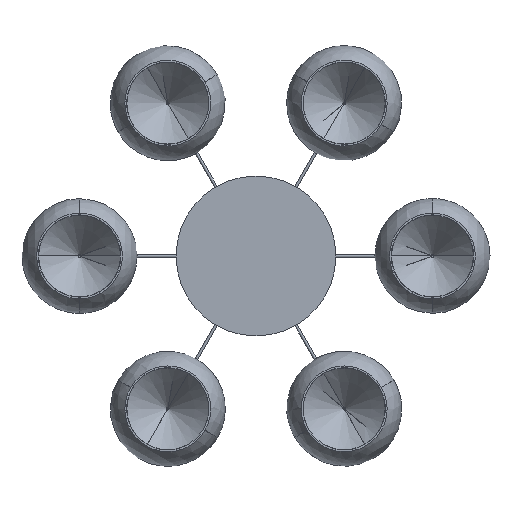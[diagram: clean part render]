
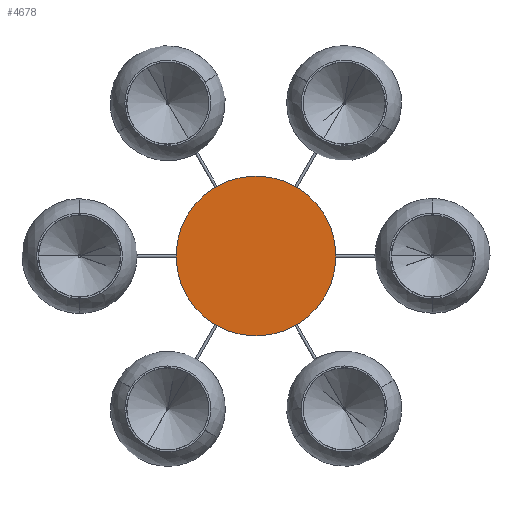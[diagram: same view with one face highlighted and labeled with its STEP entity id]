
A CAD part, front view. The second image highlights one B-rep face of the part: STEP entity #4678.
In plain terms, the highlighted planar face has unit normal (0, -1, 0).
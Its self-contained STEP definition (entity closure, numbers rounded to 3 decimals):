
#141 = DIRECTION ( 'NONE',  ( 0., 1., 0. ) ) ;
#404 = CARTESIAN_POINT ( 'NONE',  ( 0., 0., -125. ) ) ;
#423 = EDGE_CURVE ( 'NONE', #5816, #5036, #6828, .T. ) ;
#836 = CARTESIAN_POINT ( 'NONE',  ( 0., 0., 0. ) ) ;
#926 = PLANE ( 'NONE',  #3669 ) ;
#1002 = CARTESIAN_POINT ( 'NONE',  ( 0., 0., 0. ) ) ;
#1509 = DIRECTION ( 'NONE',  ( 0., 0., 1. ) ) ;
#2665 = AXIS2_PLACEMENT_3D ( 'NONE', #836, #141, #6406 ) ;
#2748 = EDGE_CURVE ( 'NONE', #5036, #5816, #7131, .T. ) ;
#3152 = EDGE_LOOP ( 'NONE', ( #5901, #5957 ) ) ;
#3160 = DIRECTION ( 'NONE',  ( 0., 1., 0. ) ) ;
#3474 = CARTESIAN_POINT ( 'NONE',  ( 0., 0., 125. ) ) ;
#3659 = AXIS2_PLACEMENT_3D ( 'NONE', #4745, #4246, #5908 ) ;
#3669 = AXIS2_PLACEMENT_3D ( 'NONE', #1002, #3160, #1509 ) ;
#3714 = FACE_OUTER_BOUND ( 'NONE', #3152, .T. ) ;
#4246 = DIRECTION ( 'NONE',  ( 0., 1., 0. ) ) ;
#4678 = ADVANCED_FACE ( 'NONE', ( #3714 ), #926, .F. ) ;
#4745 = CARTESIAN_POINT ( 'NONE',  ( 0., 0., 0. ) ) ;
#5036 = VERTEX_POINT ( 'NONE', #404 ) ;
#5816 = VERTEX_POINT ( 'NONE', #3474 ) ;
#5901 = ORIENTED_EDGE ( 'NONE', *, *, #2748, .F. ) ;
#5908 = DIRECTION ( 'NONE',  ( 0., 0., 1. ) ) ;
#5957 = ORIENTED_EDGE ( 'NONE', *, *, #423, .F. ) ;
#6406 = DIRECTION ( 'NONE',  ( 0., 0., 1. ) ) ;
#6828 = CIRCLE ( 'NONE', #3659, 125. ) ;
#7131 = CIRCLE ( 'NONE', #2665, 125. ) ;
